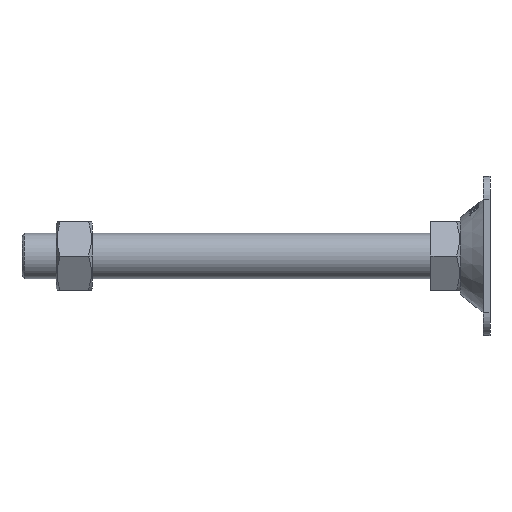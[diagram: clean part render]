
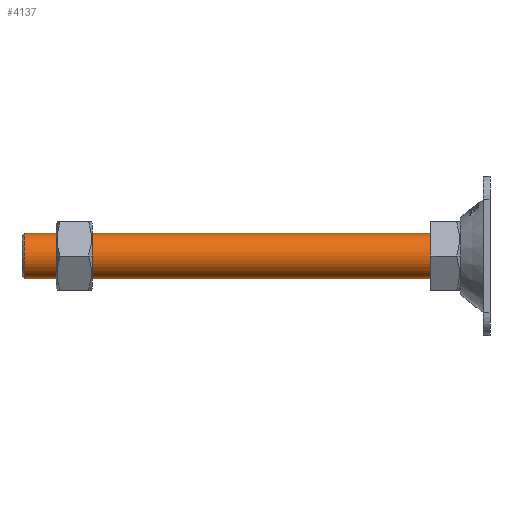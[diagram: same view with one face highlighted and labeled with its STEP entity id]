
A CAD part, left-side view. The second image highlights one B-rep face of the part: STEP entity #4137.
In plain terms, the highlighted cylindrical face has radius 10 mm (diameter 20 mm), a partial arc.
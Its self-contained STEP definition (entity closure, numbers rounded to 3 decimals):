
#280 = ORIENTED_EDGE ( 'NONE', *, *, #2455, .T. ) ;
#333 = CARTESIAN_POINT ( 'NONE',  ( 0., 11., 0. ) ) ;
#675 = DIRECTION ( 'NONE',  ( 0., 0., -1. ) ) ;
#692 = VERTEX_POINT ( 'NONE', #4738 ) ;
#763 = VECTOR ( 'NONE', #3305, 1000. ) ;
#932 = LINE ( 'NONE', #4308, #1839 ) ;
#1064 = CIRCLE ( 'NONE', #6075, 10. ) ;
#1145 = CARTESIAN_POINT ( 'NONE',  ( 0., 13., -10. ) ) ;
#1374 = EDGE_CURVE ( 'NONE', #1406, #5204, #3720, .T. ) ;
#1406 = VERTEX_POINT ( 'NONE', #1145 ) ;
#1436 = CARTESIAN_POINT ( 'NONE',  ( 0., 192., -10. ) ) ;
#1561 = EDGE_CURVE ( 'NONE', #692, #5204, #932, .T. ) ;
#1682 = FACE_OUTER_BOUND ( 'NONE', #3424, .T. ) ;
#1706 = DIRECTION ( 'NONE',  ( 0., 0., -1. ) ) ;
#1839 = VECTOR ( 'NONE', #3756, 1000. ) ;
#1975 = CARTESIAN_POINT ( 'NONE',  ( 0., 13., 0. ) ) ;
#2163 = ORIENTED_EDGE ( 'NONE', *, *, #1374, .T. ) ;
#2455 = EDGE_CURVE ( 'NONE', #3800, #1406, #4708, .T. ) ;
#2537 = CARTESIAN_POINT ( 'NONE',  ( 0., 13., 10. ) ) ;
#3305 = DIRECTION ( 'NONE',  ( 0., -1., 0. ) ) ;
#3424 = EDGE_LOOP ( 'NONE', ( #4747, #4560, #280, #2163 ) ) ;
#3720 = CIRCLE ( 'NONE', #4514, 10. ) ;
#3756 = DIRECTION ( 'NONE',  ( 0., -1., 0. ) ) ;
#3800 = VERTEX_POINT ( 'NONE', #1436 ) ;
#3812 = CARTESIAN_POINT ( 'NONE',  ( 0., 11., -10. ) ) ;
#4071 = CYLINDRICAL_SURFACE ( 'NONE', #4526, 10. ) ;
#4137 = ADVANCED_FACE ( 'NONE', ( #1682 ), #4071, .T. ) ;
#4145 = EDGE_CURVE ( 'NONE', #692, #3800, #1064, .T. ) ;
#4308 = CARTESIAN_POINT ( 'NONE',  ( 0., 11., 10. ) ) ;
#4514 = AXIS2_PLACEMENT_3D ( 'NONE', #1975, #5750, #5904 ) ;
#4526 = AXIS2_PLACEMENT_3D ( 'NONE', #333, #5460, #675 ) ;
#4560 = ORIENTED_EDGE ( 'NONE', *, *, #4145, .T. ) ;
#4708 = LINE ( 'NONE', #3812, #763 ) ;
#4738 = CARTESIAN_POINT ( 'NONE',  ( 0., 192., 10. ) ) ;
#4747 = ORIENTED_EDGE ( 'NONE', *, *, #1561, .F. ) ;
#4972 = CARTESIAN_POINT ( 'NONE',  ( 0., 192., 0. ) ) ;
#5204 = VERTEX_POINT ( 'NONE', #2537 ) ;
#5460 = DIRECTION ( 'NONE',  ( 0., -1., 0. ) ) ;
#5750 = DIRECTION ( 'NONE',  ( 0., 1., 0. ) ) ;
#5835 = DIRECTION ( 'NONE',  ( 0., -1., 0. ) ) ;
#5904 = DIRECTION ( 'NONE',  ( 0., 0., 1. ) ) ;
#6075 = AXIS2_PLACEMENT_3D ( 'NONE', #4972, #5835, #1706 ) ;
